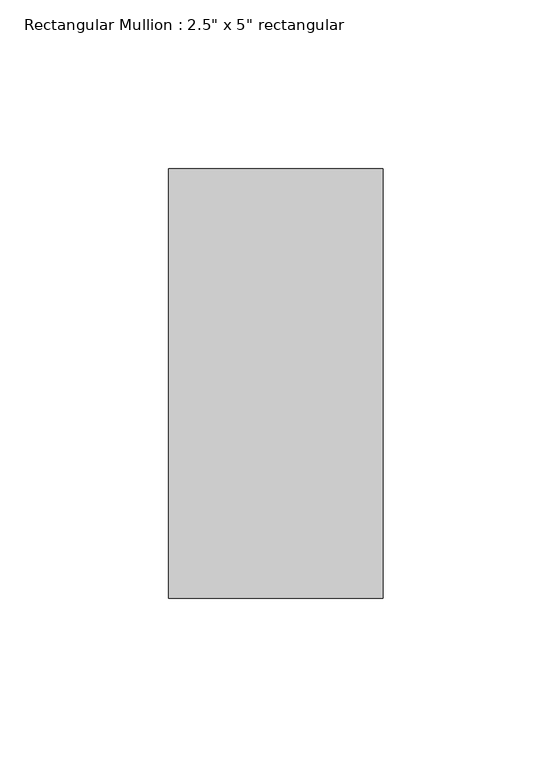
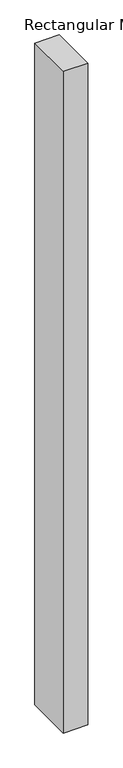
"""IFC4 building model written with IfcOpenShell, lengths in millimetres: member geometry."""

from ifc_helpers import new_model, si_unit, frame, origin, place, context, project, spatial, polyline, outline, extrude, source, transform, mapped, element, save


def member_52939b3a(model_context):
    return source(origin(), model_context, "Body", "SweptSolid", [
        extrude(outline(polyline([(31.75, 63.5), (31.75, -63.5), (-31.75, -63.5), (-31.75, 63.5), (31.75, 63.5)])), frame((0.0, 0.0, -1812.925), z_axis=(0.0, 0.0, 1.0), x_axis=(1.0, 0.0, 0.0)), (0.0, 0.0, 1.0), 1812.925),
    ])


if __name__ == "__main__":
    model = new_model("IFC4")
    model_context = context("Model", 3, world=origin())
    ifc_project = project(units=[si_unit("LENGTHUNIT", "METRE", prefix="MILLI")], contexts=[model_context])
    site = spatial("IfcSite", under=ifc_project)
    building = spatial("IfcBuilding", under=site)
    placement = place(None, origin())
    member_shape = member_52939b3a(model_context)
    element("IfcMember", 1, ObjectType="Rectangular Mullion : 2.5\" x 5\" rectangular", at=placement, inside=building, context=model_context, shape_type="MappedRepresentation", body=[
        mapped(member_shape, transform((0.0, 0.0, 0.0), x_axis=(1.0, 0.0, 0.0), y_axis=(0.0, 1.0, 0.0), z_axis=(0.0, 0.0, 1.0))),
    ])
    save(model, "model.ifc")
